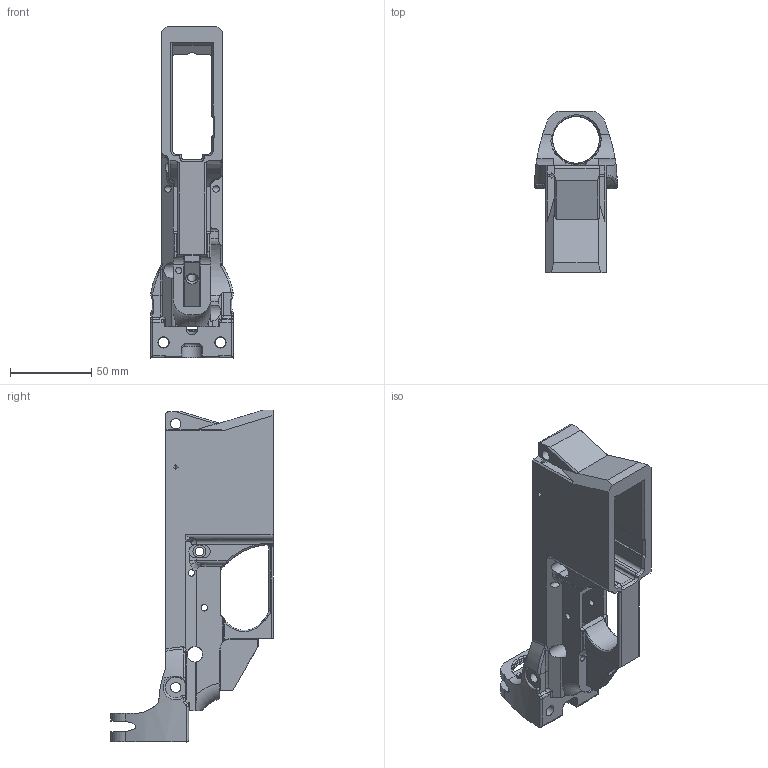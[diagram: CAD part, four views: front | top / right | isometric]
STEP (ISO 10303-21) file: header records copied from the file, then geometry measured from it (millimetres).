
FILE_DESCRIPTION(/* description */ (''),/* implementation_level */ '2;1');
FILE_NAME(/* name */ 'D:\~~GatCad\Vanguard_Fixed_Dimensions\STEP\U-Bolt Vanguard.stp',/* time_stamp */ '2020-05-26T12:09:19-05:00',/* author */ ('johne'),/* organization */ (''),/* preprocessor_version */ 'ST-DEVELOPER v18',/* originating_system */ 'Autodesk Inventor 2020',/* authorisation */ '');
FILE_SCHEMA (('AUTOMOTIVE_DESIGN { 1 0 10303 214 3 1 1 }'));
Length unit declared in the file: inch
Products named in the file (1): Vanguard - Fixed Dimensions V1.10
Bounding box: 50.81 x 99.44 x 203.77 mm (x, y, z)
Volume: 184382.2 mm3; surface area: 65571.2 mm2
Topology: 1 solids, 1 shells, 565 faces, 1684 edges, 1092 vertices
Faces by surface type: cylinder 222, plane 174, bspline 114, torus 30, cone 19, sphere 6
Full cylindrical faces by diameter (mm): 3.81 x1, 3.969 x5, 5.182 x1, 5.334 x1, 6.35 x4, 6.477 x1, 6.858 x3, 7.938 x1, 9.55 x2, 28.651 x8
Entity records: 28454 total; most frequent: CARTESIAN_POINT 14212, ORIENTED_EDGE 3340, DIRECTION 2520, EDGE_CURVE 1670, VERTEX_POINT 1092, AXIS2_PLACEMENT_3D 905, LINE 710, VECTOR 710
